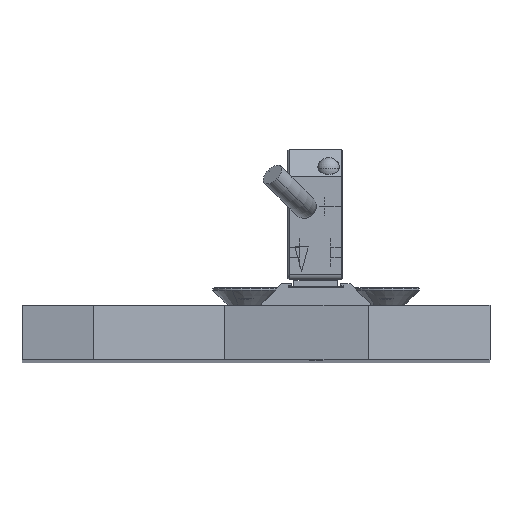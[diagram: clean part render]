
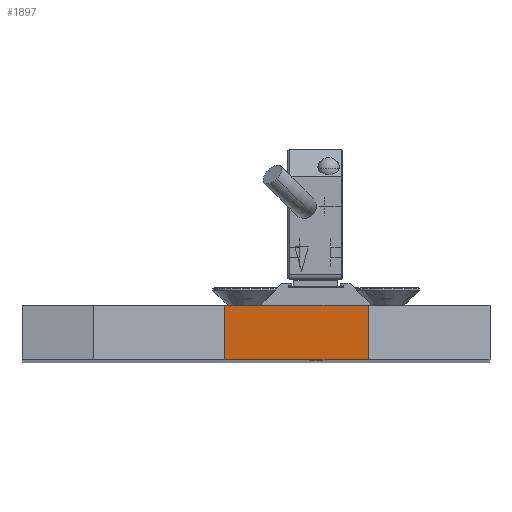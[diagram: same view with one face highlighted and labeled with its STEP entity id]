
A CAD part, top view. The second image highlights one B-rep face of the part: STEP entity #1897.
In plain terms, the highlighted planar face has unit normal (-0.152, 0, 0.988).
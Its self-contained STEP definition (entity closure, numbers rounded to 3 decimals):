
#238 = CARTESIAN_POINT ( 'NONE',  ( 3.517, 10., 20.155 ) ) ;
#780 = DIRECTION ( 'NONE',  ( 0.152, 0., -0.988 ) ) ;
#847 = VERTEX_POINT ( 'NONE', #7040 ) ;
#1411 = EDGE_CURVE ( 'NONE', #10241, #3674, #9513, .T. ) ;
#1530 = FACE_OUTER_BOUND ( 'NONE', #11192, .T. ) ;
#1897 = ADVANCED_FACE ( 'NONE', ( #1530 ), #7316, .F. ) ;
#2339 = ORIENTED_EDGE ( 'NONE', *, *, #1411, .F. ) ;
#2428 = DIRECTION ( 'NONE',  ( 0.988, 0., 0.152 ) ) ;
#3240 = VERTEX_POINT ( 'NONE', #9528 ) ;
#3467 = DIRECTION ( 'NONE',  ( 0., -1., 0. ) ) ;
#3618 = LINE ( 'NONE', #7595, #9004 ) ;
#3674 = VERTEX_POINT ( 'NONE', #6465 ) ;
#3938 = EDGE_CURVE ( 'NONE', #3674, #3240, #3618, .T. ) ;
#4010 = VECTOR ( 'NONE', #12202, 1000. ) ;
#4343 = LINE ( 'NONE', #11811, #5624 ) ;
#4617 = DIRECTION ( 'NONE',  ( 0., -1., 0. ) ) ;
#5126 = CARTESIAN_POINT ( 'NONE',  ( 3.517, 10., 20.155 ) ) ;
#5624 = VECTOR ( 'NONE', #3467, 1000. ) ;
#6465 = CARTESIAN_POINT ( 'NONE',  ( 29.889, 10., 24.212 ) ) ;
#6894 = AXIS2_PLACEMENT_3D ( 'NONE', #5126, #780, #10060 ) ;
#7040 = CARTESIAN_POINT ( 'NONE',  ( 3.517, 0., 20.155 ) ) ;
#7105 = EDGE_CURVE ( 'NONE', #847, #3240, #8836, .T. ) ;
#7316 = PLANE ( 'NONE',  #6894 ) ;
#7566 = ORIENTED_EDGE ( 'NONE', *, *, #7105, .T. ) ;
#7595 = CARTESIAN_POINT ( 'NONE',  ( 29.889, 10., 24.212 ) ) ;
#8738 = ORIENTED_EDGE ( 'NONE', *, *, #3938, .F. ) ;
#8778 = ORIENTED_EDGE ( 'NONE', *, *, #11630, .T. ) ;
#8779 = CARTESIAN_POINT ( 'NONE',  ( 3.517, 0., 20.155 ) ) ;
#8836 = LINE ( 'NONE', #8779, #9811 ) ;
#9004 = VECTOR ( 'NONE', #4617, 1000. ) ;
#9513 = LINE ( 'NONE', #11319, #4010 ) ;
#9528 = CARTESIAN_POINT ( 'NONE',  ( 29.889, 0., 24.212 ) ) ;
#9811 = VECTOR ( 'NONE', #2428, 1000. ) ;
#10060 = DIRECTION ( 'NONE',  ( -0.988, 0., -0.152 ) ) ;
#10241 = VERTEX_POINT ( 'NONE', #238 ) ;
#11192 = EDGE_LOOP ( 'NONE', ( #7566, #8738, #2339, #8778 ) ) ;
#11319 = CARTESIAN_POINT ( 'NONE',  ( 3.517, 10., 20.155 ) ) ;
#11630 = EDGE_CURVE ( 'NONE', #10241, #847, #4343, .T. ) ;
#11811 = CARTESIAN_POINT ( 'NONE',  ( 3.517, 10., 20.155 ) ) ;
#12202 = DIRECTION ( 'NONE',  ( 0.988, 0., 0.152 ) ) ;
